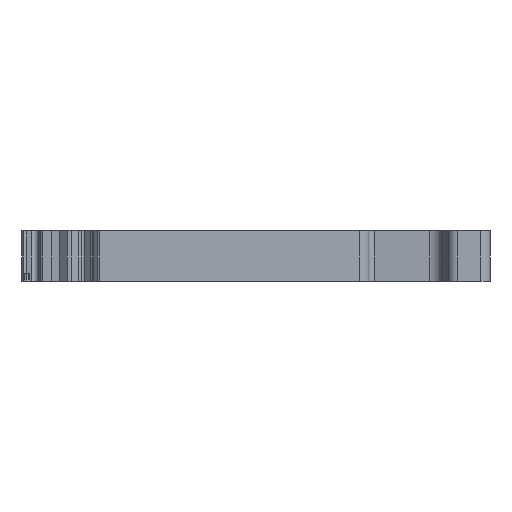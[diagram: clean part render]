
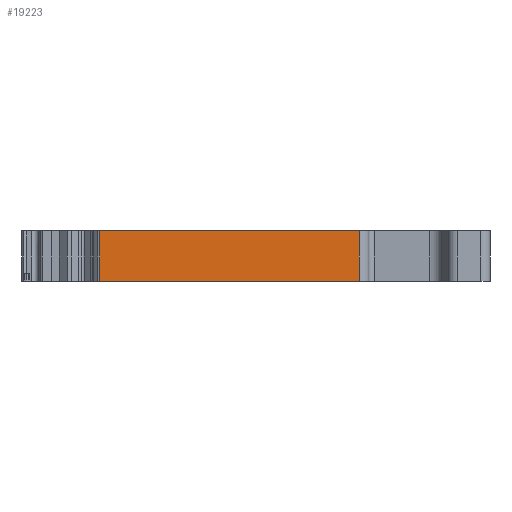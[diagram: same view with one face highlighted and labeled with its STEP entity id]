
A CAD part, left-side view. The second image highlights one B-rep face of the part: STEP entity #19223.
In plain terms, the highlighted planar face has unit normal (-1, 0, 0).
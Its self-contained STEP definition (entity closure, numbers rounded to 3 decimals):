
#1617=DIRECTION('',(0.,-1.,0.));
#1618=VECTOR('',#1617,26.423);
#1619=CARTESIAN_POINT('',(-3.5,39.773,
-5.1));
#1620=LINE('',#1619,#1618);
#3174=DIRECTION('',(0.,1.,0.));
#3175=VECTOR('',#3174,26.423);
#3176=CARTESIAN_POINT('',(-3.5,13.35,
0.));
#3177=LINE('',#3176,#3175);
#6412=DIRECTION('',(0.,0.,1.));
#6413=VECTOR('',#6412,5.1);
#6414=CARTESIAN_POINT('',(-3.5,13.35,
-5.1));
#6415=LINE('',#6414,#6413);
#6416=DIRECTION('',(0.,0.,-1.));
#6417=VECTOR('',#6416,5.1);
#6418=CARTESIAN_POINT('',(-3.5,39.773,
0.));
#6419=LINE('',#6418,#6417);
#10239=CARTESIAN_POINT('',(-3.5,39.773,
-5.1));
#10240=VERTEX_POINT('',#10239);
#10241=CARTESIAN_POINT('',(-3.5,13.35,
-5.1));
#10242=VERTEX_POINT('',#10241);
#10857=CARTESIAN_POINT('',(-3.5,13.35,
0.));
#10858=VERTEX_POINT('',#10857);
#10859=CARTESIAN_POINT('',(-3.5,39.773,
0.));
#10861=VERTEX_POINT('',#10859);
#19211=CARTESIAN_POINT('',(-3.5,26.562,
-2.55));
#19212=DIRECTION('',(1.,0.,0.));
#19213=DIRECTION('',(0.,0.,-1.));
#19214=AXIS2_PLACEMENT_3D('',#19211,#19212,#19213);
#19215=PLANE('',#19214);
#19216=ORIENTED_EDGE('',*,*,#13863,.F.);
#19217=ORIENTED_EDGE('',*,*,#19206,.F.);
#19218=ORIENTED_EDGE('',*,*,#13123,.F.);
#19220=ORIENTED_EDGE('',*,*,#19219,.F.);
#19221=EDGE_LOOP('',(#19216,#19217,#19218,#19220));
#19222=FACE_OUTER_BOUND('',#19221,.F.);
#13123=EDGE_CURVE('',#10240,#10242,#1620,.T.);
#13863=EDGE_CURVE('',#10858,#10861,#3177,.T.);
#19206=EDGE_CURVE('',#10242,#10858,#6415,.T.);
#19219=EDGE_CURVE('',#10861,#10240,#6419,.T.);
#19223=ADVANCED_FACE('',(#19222),#19215,.F.);
